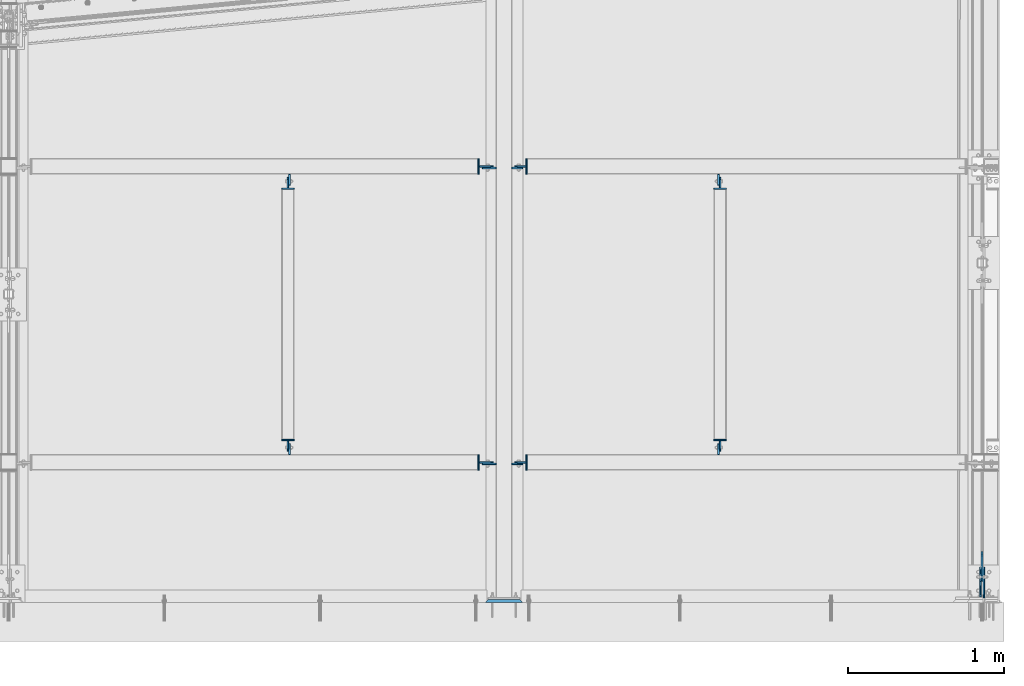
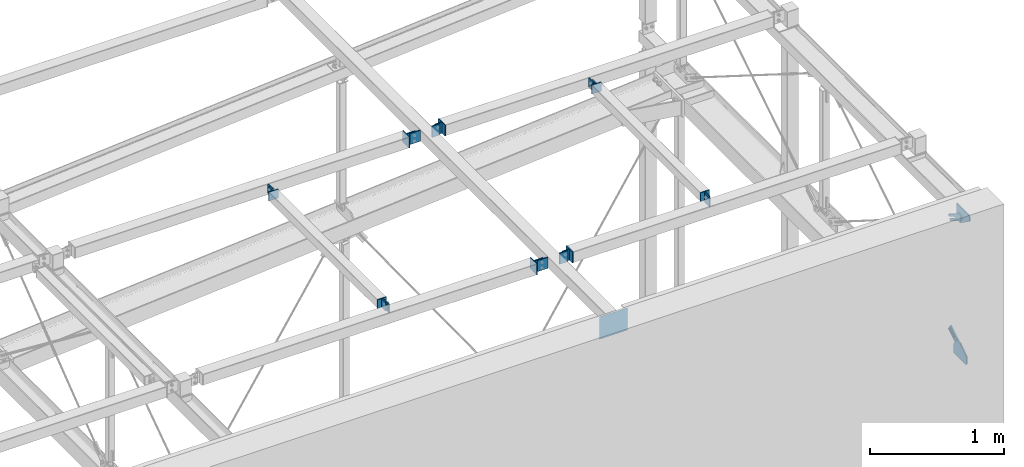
# One storey, part 157 of 271: 29 plates, 12 elements without a shape of their own.
"""IFC2X3 building model written with IfcOpenShell, lengths in millimetres."""

from ifc_helpers import new_model, si_unit, frame, origin_with_axes, place, context, subcontext, project, spatial, polyline, outline, extrude, boolean, material, type_object, element, aggregate, save


model = new_model("IFC2X3")

# Units and contexts
model_context = context("Model", 3, precision=1e-05, world=origin_with_axes())
body_context = subcontext(model_context, "Body", "Model", "MODEL_VIEW")
ifc_project = project(units=[si_unit("LENGTHUNIT", "METRE", prefix="MILLI"), si_unit("AREAUNIT", "SQUARE_METRE"), si_unit("VOLUMEUNIT", "CUBIC_METRE"), si_unit("MASSUNIT", "GRAM", prefix="KILO"), si_unit("TIMEUNIT", "SECOND"), si_unit("PLANEANGLEUNIT", "RADIAN"), si_unit("SOLIDANGLEUNIT", "STERADIAN"), si_unit("THERMODYNAMICTEMPERATUREUNIT", "DEGREE_CELSIUS"), si_unit("LUMINOUSINTENSITYUNIT", "LUMEN")], contexts=[model_context])

# Site, building, storey
site_placement = place(None, origin_with_axes())
site = spatial("IfcSite", under=ifc_project, at=site_placement, Name="Undefined", CompositionType="ELEMENT")
building_placement = place(site_placement, origin_with_axes())
building = spatial("IfcBuilding", under=site, at=building_placement, Name="Undefined", CompositionType="ELEMENT")
storey_placement = place(building_placement, origin_with_axes())
storey = spatial("IfcBuildingStorey", under=building, at=storey_placement, Name="Undefined", CompositionType="ELEMENT", Elevation=0.0)

# Assembly, plate
assembly_1_placement = place(storey_placement, origin_with_axes())
assembly_1 = element("IfcElementAssembly", 1, at=assembly_1_placement, inside=storey, AssemblyPlace="NOTDEFINED", PredefinedType="RIGID_FRAME")
ifc_material_1 = material(Name="STEEL/S355JR")
plate_type_1 = type_object("IfcPlateType", Name="BL8*100", PredefinedType="NOTDEFINED")
plate_1_placement = place(assembly_1_placement, frame((9672.37568709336, 2749.32498425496, 20104.3499999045), z_axis=(-1.0, 0.0, 1.38777878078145e-17), x_axis=(0.0, 0.0, 1.0)))
plate_1 = element("IfcPlate", 2, at=plate_1_placement, type_object=plate_type_1, material=ifc_material_1, Name="BLACHA", ObjectType="BL8*100", context=body_context, shape_type="SweptSolid", body=[
    extrude(outline(polyline([(0.0, 0.0), (100.0, 0.0), (100.0, 100.0), (1.59161572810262e-12, 100.0), (0.0, 0.0)])), frame((0.0, 0.0, -4.0), z_axis=(0.0, 0.0, 1.0), x_axis=(1.0, 0.0, 0.0)), (0.0, 0.0, 1.0), 8.0),
])

assembly_2_placement = place(storey_placement, origin_with_axes())
assembly_2 = element("IfcElementAssembly", 3, at=assembly_2_placement, inside=storey, AssemblyPlace="NOTDEFINED", PredefinedType="RIGID_FRAME")
plate_2_placement = place(assembly_2_placement, frame((9364.37568709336, 2749.32498425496, 20204.3499999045), z_axis=(1.0, 0.0, 0.0), x_axis=(0.0, 0.0, -1.0)))
plate_2 = element("IfcPlate", 4, at=plate_2_placement, type_object=plate_type_1, material=ifc_material_1, Name="BLACHA", ObjectType="BL8*100", context=body_context, shape_type="SweptSolid", body=[
    extrude(outline(polyline([(0.0, 0.0), (100.0, 0.0), (100.0, 100.0), (1.59161572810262e-12, 100.0), (0.0, 0.0)])), frame((0.0, 0.0, -4.0), z_axis=(0.0, 0.0, 1.0), x_axis=(1.0, 0.0, 0.0)), (0.0, 0.0, 1.0), 8.0),
])

assembly_3_placement = place(storey_placement, origin_with_axes())
assembly_3 = element("IfcElementAssembly", 5, at=assembly_3_placement, inside=storey, AssemblyPlace="NOTDEFINED", PredefinedType="RIGID_FRAME")
plate_3_placement = place(assembly_3_placement, frame((9364.37568709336, 849.32498425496, 20204.3499999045), z_axis=(1.0, 0.0, 0.0), x_axis=(0.0, 0.0, -1.0)))
plate_3 = element("IfcPlate", 6, at=plate_3_placement, type_object=plate_type_1, material=ifc_material_1, Name="BLACHA", ObjectType="BL8*100", context=body_context, shape_type="SweptSolid", body=[
    extrude(outline(polyline([(0.0, 0.0), (100.0, 0.0), (100.0, 100.0), (1.59161572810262e-12, 100.0), (0.0, 0.0)])), frame((0.0, 0.0, -4.0), z_axis=(0.0, 0.0, 1.0), x_axis=(1.0, 0.0, 0.0)), (0.0, 0.0, 1.0), 8.0),
])

assembly_4_placement = place(storey_placement, origin_with_axes())
assembly_4 = element("IfcElementAssembly", 7, at=assembly_4_placement, inside=storey, AssemblyPlace="NOTDEFINED", PredefinedType="RIGID_FRAME")
plate_4_placement = place(assembly_4_placement, frame((9672.37568709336, 849.32498425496, 20104.3499999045), z_axis=(-1.0, 0.0, 1.38777878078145e-17), x_axis=(0.0, 0.0, 1.0)))
plate_4 = element("IfcPlate", 8, at=plate_4_placement, type_object=plate_type_1, material=ifc_material_1, Name="BLACHA", ObjectType="BL8*100", context=body_context, shape_type="SweptSolid", body=[
    extrude(outline(polyline([(0.0, 0.0), (100.0, 0.0), (100.0, 100.0), (1.59161572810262e-12, 100.0), (0.0, 0.0)])), frame((0.0, 0.0, -4.0), z_axis=(0.0, 0.0, 1.0), x_axis=(1.0, 0.0, 0.0)), (0.0, 0.0, 1.0), 8.0),
])

assembly_5_placement = place(storey_placement, origin_with_axes())
assembly_5 = element("IfcElementAssembly", 9, at=assembly_5_placement, inside=storey, AssemblyPlace="NOTDEFINED", PredefinedType="RIGID_FRAME")
plate_type_2 = type_object("IfcPlateType", Name="BL12*56", PredefinedType="NOTDEFINED")
plate_5_placement = place(assembly_5_placement, frame((12597.7513741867, 141.117325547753, 18753.0240687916), z_axis=(1.0, 0.0, 0.0), x_axis=(0.0, -0.221213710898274, -0.975225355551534)))
plate_5 = element("IfcPlate", 10, at=plate_5_placement, type_object=plate_type_2, material=ifc_material_1, Name="BLACHA", ObjectType="BL12*56", context=body_context, shape_type="SweptSolid", body=[
    extrude(outline(polyline([(0.0, 0.0), (21.2132034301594, 1.09139364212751e-11), (39.5979804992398, 18.3847751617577), (39.5979804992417, 39.5979804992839), (-91.2167739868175, 170.412734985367), (-105.358909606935, 156.270599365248), (-34.6482315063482, 85.5599212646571), (-45.9619407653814, 74.2462158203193), (-116.672622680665, 144.95689392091), (-130.814758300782, 130.814758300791), (0.0, 0.0)])), frame((0.0, 0.0, -6.0), z_axis=(0.0, 0.0, 1.0), x_axis=(1.0, 0.0, 0.0)), (0.0, 0.0, 1.0), 12.0),
])
aggregate(assembly_5, [plate_5])

assembly_6_placement = place(storey_placement, origin_with_axes())
assembly_6 = element("IfcElementAssembly", 11, at=assembly_6_placement, inside=storey, AssemblyPlace="NOTDEFINED", PredefinedType="RIGID_FRAME")
plate_6_placement = place(assembly_6_placement, frame((12597.7513741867, 140.085929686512, 19896.325929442), z_axis=(-1.0, 0.0, 1.38777878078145e-17), x_axis=(0.0, -0.221213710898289, 0.97522535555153)))
plate_6 = element("IfcPlate", 12, at=plate_6_placement, type_object=plate_type_2, material=ifc_material_1, Name="BLACHA", ObjectType="BL12*56", context=body_context, shape_type="SweptSolid", body=[
    extrude(outline(polyline([(0.0, 0.0), (21.2132034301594, 1.09139364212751e-11), (39.5979804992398, 18.3847751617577), (39.5979804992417, 39.5979804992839), (-91.2167739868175, 170.412734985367), (-105.358909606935, 156.270599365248), (-34.6482315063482, 85.5599212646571), (-45.9619407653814, 74.2462158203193), (-116.672622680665, 144.95689392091), (-130.814758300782, 130.814758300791), (0.0, 0.0)])), frame((0.0, 0.0, -6.0), z_axis=(0.0, 0.0, 1.0), x_axis=(1.0, 0.0, 0.0)), (0.0, 0.0, 1.0), 12.0),
])
aggregate(assembly_6, [plate_6])

assembly_7_placement = place(storey_placement, origin_with_axes())
assembly_7 = element("IfcElementAssembly", 13, at=assembly_7_placement, inside=storey, AssemblyPlace="NOTDEFINED", PredefinedType="RIGID_FRAME")
plate_type_3 = type_object("IfcPlateType", Name="BL10*70", PredefinedType="NOTDEFINED")
plate_7_placement = place(assembly_7_placement, frame((10915.3756870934, 984.32498425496, 20204.3499999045), z_axis=(1.0, 0.0, 0.0), x_axis=(0.0, -0.707106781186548, -0.707106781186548)))
plate_7 = element("IfcPlate", 14, at=plate_7_placement, type_object=plate_type_3, material=ifc_material_1, Name="BLACHA", ObjectType="BL10*70", context=body_context, shape_type="SweptSolid", body=[
    extrude(outline(polyline([(0.0, 0.0), (21.2132034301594, 1.09139364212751e-11), (56.5685424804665, 35.3553390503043), (56.568542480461, 56.5685424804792), (17.6776695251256, 95.4594192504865), (-38.890872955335, 38.8908729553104), (0.0, 0.0)])), frame((0.0, 0.0, -5.0), z_axis=(0.0, 0.0, 1.0), x_axis=(1.0, 0.0, 0.0)), (0.0, 0.0, 1.0), 10.0),
])

# Plate
plate_8_placement = place(assembly_4_placement, frame((10905.3756870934, 949.32498425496, 20204.3499999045), z_axis=(1.0, 0.0, 0.0), x_axis=(0.0, 0.0, -1.0)))
plate_8 = element("IfcPlate", 15, at=plate_8_placement, type_object=plate_type_3, material=ifc_material_1, Name="BLACHA", ObjectType="BL10*70", context=body_context, shape_type="SweptSolid", body=[
    extrude(outline(polyline([(0.0, 0.0), (80.0, 0.0), (80.0, 70.0), (0.0, 70.0), (0.0, 0.0)])), frame((0.0, 0.0, -5.0), z_axis=(0.0, 0.0, 1.0), x_axis=(1.0, 0.0, 0.0)), (0.0, 0.0, 1.0), 10.0),
])

plate_9_placement = place(assembly_7_placement, frame((10915.3756870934, 2714.32498425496, 20124.3499999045), z_axis=(1.0, 0.0, 0.0), x_axis=(0.0, 0.707106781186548, 0.707106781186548)))
plate_9 = element("IfcPlate", 16, at=plate_9_placement, type_object=plate_type_3, material=ifc_material_1, Name="BLACHA", ObjectType="BL10*70", context=body_context, shape_type="SweptSolid", body=[
    extrude(outline(polyline([(0.0, 0.0), (21.2132034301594, 1.09139364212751e-11), (56.5685424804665, 35.3553390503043), (56.568542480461, 56.5685424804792), (17.6776695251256, 95.4594192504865), (-38.890872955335, 38.8908729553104), (0.0, 0.0)])), frame((0.0, 0.0, -5.0), z_axis=(0.0, 0.0, 1.0), x_axis=(1.0, 0.0, 0.0)), (0.0, 0.0, 1.0), 10.0),
])

plate_10_placement = place(assembly_1_placement, frame((10905.3756870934, 2749.32498425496, 20124.3499999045), z_axis=(1.0, 0.0, 0.0), x_axis=(0.0, 0.0, 1.0)))
plate_10 = element("IfcPlate", 17, at=plate_10_placement, type_object=plate_type_3, material=ifc_material_1, Name="BLACHA", ObjectType="BL10*70", context=body_context, shape_type="SweptSolid", body=[
    extrude(outline(polyline([(0.0, 0.0), (80.0, 0.0), (80.0, 70.0), (0.0, 70.0), (0.0, 0.0)])), frame((0.0, 0.0, -5.0), z_axis=(0.0, 0.0, 1.0), x_axis=(1.0, 0.0, 0.0)), (0.0, 0.0, 1.0), 10.0),
])

# Assembly, plate
assembly_8_placement = place(storey_placement, origin_with_axes())
assembly_8 = element("IfcElementAssembly", 18, at=assembly_8_placement, inside=storey, AssemblyPlace="NOTDEFINED", PredefinedType="RIGID_FRAME")
plate_11_placement = place(assembly_8_placement, frame((8141.37568709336, 984.32498425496, 20124.3499999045), z_axis=(-1.0, 0.0, 1.38777878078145e-17), x_axis=(0.0, -0.707106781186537, 0.707106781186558)))
plate_11 = element("IfcPlate", 19, at=plate_11_placement, type_object=plate_type_3, material=ifc_material_1, Name="BLACHA", ObjectType="BL10*70", context=body_context, shape_type="SweptSolid", body=[
    extrude(outline(polyline([(0.0, 0.0), (21.2132034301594, 1.09139364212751e-11), (56.5685424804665, 35.3553390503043), (56.568542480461, 56.5685424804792), (17.6776695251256, 95.4594192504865), (-38.890872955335, 38.8908729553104), (0.0, 0.0)])), frame((0.0, 0.0, -5.0), z_axis=(0.0, 0.0, 1.0), x_axis=(1.0, 0.0, 0.0)), (0.0, 0.0, 1.0), 10.0),
])

# Plate
plate_12_placement = place(assembly_3_placement, frame((8151.37568709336, 949.32498425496, 20124.3499999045), z_axis=(-1.0, 0.0, 1.38777878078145e-17), x_axis=(0.0, 0.0, 1.0)))
plate_12 = element("IfcPlate", 20, at=plate_12_placement, type_object=plate_type_3, material=ifc_material_1, Name="BLACHA", ObjectType="BL10*70", context=body_context, shape_type="SweptSolid", body=[
    extrude(outline(polyline([(0.0, 0.0), (80.0, 0.0), (80.0, 70.0), (0.0, 70.0), (0.0, 0.0)])), frame((0.0, 0.0, -5.0), z_axis=(0.0, 0.0, 1.0), x_axis=(1.0, 0.0, 0.0)), (0.0, 0.0, 1.0), 10.0),
])

plate_13_placement = place(assembly_8_placement, frame((8141.37568709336, 2714.32498425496, 20204.3499999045), z_axis=(-1.0, 0.0, 1.38777878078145e-17), x_axis=(0.0, 0.707106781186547, -0.707106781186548)))
plate_13 = element("IfcPlate", 21, at=plate_13_placement, type_object=plate_type_3, material=ifc_material_1, Name="BLACHA", ObjectType="BL10*70", context=body_context, shape_type="SweptSolid", body=[
    extrude(outline(polyline([(0.0, 0.0), (21.2132034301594, 1.09139364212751e-11), (56.5685424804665, 35.3553390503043), (56.568542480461, 56.5685424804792), (17.6776695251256, 95.4594192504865), (-38.890872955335, 38.8908729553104), (0.0, 0.0)])), frame((0.0, 0.0, -5.0), z_axis=(0.0, 0.0, 1.0), x_axis=(1.0, 0.0, 0.0)), (0.0, 0.0, 1.0), 10.0),
])

plate_14_placement = place(assembly_2_placement, frame((8151.37568709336, 2749.32498425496, 20204.3499999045), z_axis=(-1.0, 0.0, 1.38777878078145e-17), x_axis=(0.0, 0.0, -1.0)))
plate_14 = element("IfcPlate", 22, at=plate_14_placement, type_object=plate_type_3, material=ifc_material_1, Name="BLACHA", ObjectType="BL10*70", context=body_context, shape_type="SweptSolid", body=[
    extrude(outline(polyline([(0.0, 0.0), (80.0, 0.0), (80.0, 70.0), (0.0, 70.0), (0.0, 0.0)])), frame((0.0, 0.0, -5.0), z_axis=(0.0, 0.0, 1.0), x_axis=(1.0, 0.0, 0.0)), (0.0, 0.0, 1.0), 10.0),
])

plate_15_placement = place(assembly_1_placement, frame((9613.37568709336, 2799.32498425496, 20104.3499999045), z_axis=(0.0, 1.0, 0.0), x_axis=(-0.707106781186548, 0.0, 0.707106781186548)))
plate_15 = element("IfcPlate", 23, at=plate_15_placement, type_object=plate_type_3, material=ifc_material_1, Name="BLACHA", ObjectType="BL10*70", context=body_context, shape_type="SweptSolid", body=[
    extrude(outline(polyline([(0.0, 0.0), (21.2132034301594, 1.09139364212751e-11), (70.7106781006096, 49.4974746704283), (70.7106781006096, 70.7106781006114), (31.8198051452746, 109.601554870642), (-38.890872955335, 38.8908729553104), (0.0, 0.0)])), frame((0.0, 0.0, -5.0), z_axis=(0.0, 0.0, 1.0), x_axis=(1.0, 0.0, 0.0)), (0.0, 0.0, 1.0), 10.0),
])

aggregate(assembly_1, [plate_10, plate_1, plate_15])

# Assembly, plate
assembly_9_placement = place(storey_placement, origin_with_axes())
assembly_9 = element("IfcElementAssembly", 24, at=assembly_9_placement, inside=storey, AssemblyPlace="NOTDEFINED", PredefinedType="RIGID_FRAME")
plate_16_placement = place(assembly_9_placement, frame((9578.37568709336, 2789.32498425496, 20104.3499999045), z_axis=(0.0, 1.0, 0.0), x_axis=(0.0, 0.0, 1.0)))
plate_16 = element("IfcPlate", 25, at=plate_16_placement, type_object=plate_type_3, material=ifc_material_1, Name="BLACHA", ObjectType="BL10*70", context=body_context, shape_type="SweptSolid", body=[
    extrude(outline(polyline([(0.0, 0.0), (100.0, 0.0), (100.0, 70.0), (0.0, 70.0), (0.0, 0.0)])), frame((0.0, 0.0, -5.0), z_axis=(0.0, 0.0, 1.0), x_axis=(1.0, 0.0, 0.0)), (0.0, 0.0, 1.0), 10.0),
])

# Plate
plate_17_placement = place(assembly_4_placement, frame((9613.37568709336, 899.32498425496, 20104.3499999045), z_axis=(0.0, 1.0, 0.0), x_axis=(-0.707106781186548, 0.0, 0.707106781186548)))
plate_17 = element("IfcPlate", 26, at=plate_17_placement, type_object=plate_type_3, material=ifc_material_1, Name="BLACHA", ObjectType="BL10*70", context=body_context, shape_type="SweptSolid", body=[
    extrude(outline(polyline([(0.0, 0.0), (21.2132034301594, 1.09139364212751e-11), (70.7106781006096, 49.4974746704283), (70.7106781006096, 70.7106781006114), (31.8198051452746, 109.601554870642), (-38.890872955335, 38.8908729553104), (0.0, 0.0)])), frame((0.0, 0.0, -5.0), z_axis=(0.0, 0.0, 1.0), x_axis=(1.0, 0.0, 0.0)), (0.0, 0.0, 1.0), 10.0),
])

aggregate(assembly_4, [plate_8, plate_4, plate_17])

plate_18_placement = place(assembly_9_placement, frame((9578.37568709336, 889.32498425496, 20104.3499999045), z_axis=(0.0, 1.0, 0.0), x_axis=(0.0, 0.0, 1.0)))
plate_18 = element("IfcPlate", 27, at=plate_18_placement, type_object=plate_type_3, material=ifc_material_1, Name="BLACHA", ObjectType="BL10*70", context=body_context, shape_type="SweptSolid", body=[
    extrude(outline(polyline([(0.0, 0.0), (100.0, 0.0), (100.0, 70.0), (0.0, 70.0), (0.0, 0.0)])), frame((0.0, 0.0, -5.0), z_axis=(0.0, 0.0, 1.0), x_axis=(1.0, 0.0, 0.0)), (0.0, 0.0, 1.0), 10.0),
])

plate_type_4 = type_object("IfcPlateType", Name="BL8*80", PredefinedType="NOTDEFINED")
plate_19_placement = place(assembly_7_placement, frame((10875.3756870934, 1043.32498425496, 20204.3499999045), z_axis=(0.0, -1.0, 0.0), x_axis=(0.0, 0.0, -1.0)))
plate_19 = element("IfcPlate", 28, at=plate_19_placement, type_object=plate_type_4, material=ifc_material_1, Name="BLACHA", ObjectType="BL8*80", context=body_context, shape_type="SweptSolid", body=[
    extrude(outline(polyline([(0.0, 0.0), (80.0, 0.0), (80.0, 80.0), (0.0, 80.0), (0.0, 0.0)])), frame((0.0, 0.0, -4.0), z_axis=(0.0, 0.0, 1.0), x_axis=(1.0, 0.0, 0.0)), (0.0, 0.0, 1.0), 8.0),
])

plate_20_placement = place(assembly_7_placement, frame((10875.3756870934, 2655.32498425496, 20124.3499999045), z_axis=(0.0, 1.0, 0.0), x_axis=(0.0, 0.0, 1.0)))
plate_20 = element("IfcPlate", 29, at=plate_20_placement, type_object=plate_type_4, material=ifc_material_1, Name="BLACHA", ObjectType="BL8*80", context=body_context, shape_type="SweptSolid", body=[
    extrude(outline(polyline([(0.0, 0.0), (80.0, 0.0), (80.0, 80.0), (0.0, 80.0), (0.0, 0.0)])), frame((0.0, 0.0, -4.0), z_axis=(0.0, 0.0, 1.0), x_axis=(1.0, 0.0, 0.0)), (0.0, 0.0, 1.0), 8.0),
])

aggregate(assembly_7, [plate_19, plate_7, plate_20, plate_9])

plate_21_placement = place(assembly_8_placement, frame((8181.37568709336, 1043.32498425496, 20124.3499999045), z_axis=(0.0, -1.0, 0.0), x_axis=(0.0, 0.0, 1.0)))
plate_21 = element("IfcPlate", 30, at=plate_21_placement, type_object=plate_type_4, material=ifc_material_1, Name="BLACHA", ObjectType="BL8*80", context=body_context, shape_type="SweptSolid", body=[
    extrude(outline(polyline([(0.0, 0.0), (80.0, 0.0), (80.0, 80.0), (0.0, 80.0), (0.0, 0.0)])), frame((0.0, 0.0, -4.0), z_axis=(0.0, 0.0, 1.0), x_axis=(1.0, 0.0, 0.0)), (0.0, 0.0, 1.0), 8.0),
])

plate_22_placement = place(assembly_8_placement, frame((8181.37568709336, 2655.32498425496, 20204.3499999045), z_axis=(0.0, 1.0, 0.0), x_axis=(0.0, 0.0, -1.0)))
plate_22 = element("IfcPlate", 31, at=plate_22_placement, type_object=plate_type_4, material=ifc_material_1, Name="BLACHA", ObjectType="BL8*80", context=body_context, shape_type="SweptSolid", body=[
    extrude(outline(polyline([(0.0, 0.0), (80.0, 0.0), (80.0, 80.0), (0.0, 80.0), (0.0, 0.0)])), frame((0.0, 0.0, -4.0), z_axis=(0.0, 0.0, 1.0), x_axis=(1.0, 0.0, 0.0)), (0.0, 0.0, 1.0), 8.0),
])

aggregate(assembly_8, [plate_21, plate_11, plate_22, plate_13])

# Assembly, plate
assembly_10_placement = place(storey_placement, origin_with_axes())
assembly_10 = element("IfcElementAssembly", 32, at=assembly_10_placement, inside=storey, AssemblyPlace="NOTDEFINED", PredefinedType="RIGID_FRAME")
plate_type_5 = type_object("IfcPlateType", Name="BL10*146", PredefinedType="NOTDEFINED")
plate_23_placement = place(assembly_10_placement, frame((12586.751374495, 35.3249842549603, 18647.649999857), z_axis=(1.0, 0.0, 0.0), x_axis=(0.0, 1.0, 0.0)))
plate_23 = element("IfcPlate", 33, at=plate_23_placement, type_object=plate_type_5, material=ifc_material_1, Name="BLACHA", ObjectType="BL10*146", context=body_context, shape_type="SweptSolid", body=[
    extrude(outline(polyline([(0.0, 15.0), (15.0, -1.59872115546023e-14), (191.741958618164, 0.0), (191.741958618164, 81.5274047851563), (151.221282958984, 145.824172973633), (100.0, 145.824172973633), (0.0, 75.8241729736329), (0.0, 15.0)])), frame((0.0, 0.0, -5.0), z_axis=(0.0, 0.0, 1.0), x_axis=(1.0, 0.0, 0.0)), (0.0, 0.0, 1.0), 10.0),
])
aggregate(assembly_10, [plate_23])

assembly_11_placement = place(storey_placement, origin_with_axes())
assembly_11 = element("IfcElementAssembly", 34, at=assembly_11_placement, inside=storey, AssemblyPlace="NOTDEFINED", PredefinedType="RIGID_FRAME")
plate_24_placement = place(assembly_11_placement, frame((12608.751374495, 31.3249842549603, 20001.699999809), z_axis=(-1.0, 0.0, 1.38777878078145e-17), x_axis=(0.0, 1.0, 0.0)))
plate_24 = element("IfcPlate", 35, at=plate_24_placement, type_object=plate_type_5, material=ifc_material_1, Name="BLACHA", ObjectType="BL10*146", context=body_context, shape_type="SweptSolid", body=[
    extrude(outline(polyline([(0.0, 15.0), (15.0, -1.59872115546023e-14), (194.710556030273, -1.4210854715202e-14), (194.710556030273, 81.5274047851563), (154.189895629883, 145.824172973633), (135.0, 145.824172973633), (-1.35817005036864e-14, 50.8241729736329), (0.0, 15.0)])), frame((0.0, 0.0, -5.0), z_axis=(0.0, 0.0, 1.0), x_axis=(1.0, 0.0, 0.0)), (0.0, 0.0, 1.0), 10.0),
])
aggregate(assembly_11, [plate_24])

# Plate
plate_type_6 = type_object("IfcPlateType", Name="BL10*90", PredefinedType="NOTDEFINED")
plate_25_placement = place(assembly_2_placement, frame((9443.37568709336, 2799.32498425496, 20204.3499999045), z_axis=(0.0, 1.0, 0.0), x_axis=(0.70710678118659, 0.0, -0.707106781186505)))
plate_25 = element("IfcPlate", 36, at=plate_25_placement, type_object=plate_type_6, material=ifc_material_1, Name="BLACHA", ObjectType="BL10*90", context=body_context, shape_type="SweptSolid", body=[
    extrude(outline(polyline([(0.0, 0.0), (21.2132034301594, 1.09139364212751e-11), (70.7106781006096, 49.4974746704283), (70.7106781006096, 70.7106781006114), (17.6776695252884, 123.743690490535), (-53.033008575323, 53.0330085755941), (0.0, 0.0)])), frame((0.0, 0.0, -5.0), z_axis=(0.0, 0.0, 1.0), x_axis=(1.0, 0.0, 0.0)), (0.0, 0.0, 1.0), 10.0),
])

aggregate(assembly_2, [plate_14, plate_2, plate_25])

plate_26_placement = place(assembly_9_placement, frame((9478.37568709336, 2789.32498425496, 20204.3499999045), z_axis=(0.0, 1.0, 0.0), x_axis=(0.0, 0.0, -1.0)))
plate_26 = element("IfcPlate", 37, at=plate_26_placement, type_object=plate_type_6, material=ifc_material_1, Name="BLACHA", ObjectType="BL10*90", context=body_context, shape_type="SweptSolid", body=[
    extrude(outline(polyline([(0.0, 0.0), (100.0, 0.0), (100.0, 90.0), (0.0, 90.0), (0.0, 0.0)])), frame((0.0, 0.0, -5.0), z_axis=(0.0, 0.0, 1.0), x_axis=(1.0, 0.0, 0.0)), (0.0, 0.0, 1.0), 10.0),
])

plate_27_placement = place(assembly_3_placement, frame((9443.37568709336, 899.32498425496, 20204.3499999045), z_axis=(0.0, 1.0, 0.0), x_axis=(0.70710678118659, 0.0, -0.707106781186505)))
plate_27 = element("IfcPlate", 38, at=plate_27_placement, type_object=plate_type_6, material=ifc_material_1, Name="BLACHA", ObjectType="BL10*90", context=body_context, shape_type="SweptSolid", body=[
    extrude(outline(polyline([(0.0, 0.0), (21.2132034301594, 1.09139364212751e-11), (70.7106781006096, 49.4974746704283), (70.7106781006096, 70.7106781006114), (17.6776695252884, 123.743690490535), (-53.033008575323, 53.0330085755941), (0.0, 0.0)])), frame((0.0, 0.0, -5.0), z_axis=(0.0, 0.0, 1.0), x_axis=(1.0, 0.0, 0.0)), (0.0, 0.0, 1.0), 10.0),
])

aggregate(assembly_3, [plate_12, plate_3, plate_27])

plate_28_placement = place(assembly_9_placement, frame((9478.37568709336, 889.32498425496, 20204.3499999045), z_axis=(0.0, 1.0, 0.0), x_axis=(0.0, 0.0, -1.0)))
plate_28 = element("IfcPlate", 39, at=plate_28_placement, type_object=plate_type_6, material=ifc_material_1, Name="BLACHA", ObjectType="BL10*90", context=body_context, shape_type="SweptSolid", body=[
    extrude(outline(polyline([(0.0, 0.0), (100.0, 0.0), (100.0, 90.0), (0.0, 90.0), (0.0, 0.0)])), frame((0.0, 0.0, -5.0), z_axis=(0.0, 0.0, 1.0), x_axis=(1.0, 0.0, 0.0)), (0.0, 0.0, 1.0), 10.0),
])

aggregate(assembly_9, [plate_16, plate_26, plate_28, plate_18])

# Assembly, plate
assembly_12_placement = place(storey_placement, origin_with_axes())
assembly_12 = element("IfcElementAssembly", 40, at=assembly_12_placement, inside=storey, Name="GROUT", AssemblyPlace="NOTDEFINED", PredefinedType="NOTDEFINED")
ifc_material_2 = material(Name="Undefined/GROUT")
plate_type_7 = type_object("IfcPlateType", Name="BL20*205", PredefinedType="NOTDEFINED")
plate_29_placement = place(assembly_12_placement, frame((9648.37568709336, 9.32498425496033, 20019.3499999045), z_axis=(0.0, 1.0, 0.0), x_axis=(-1.0, 0.0, 1.38777878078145e-17)))
plate_29 = element("IfcPlate", 41, at=plate_29_placement, type_object=plate_type_7, material=ifc_material_2, Name="GROUT", ObjectType="BL20*205", context=body_context, shape_type="CSG", body=[
    boolean("DIFFERENCE", boolean("DIFFERENCE", boolean("DIFFERENCE", boolean("DIFFERENCE", extrude(outline(polyline([(0.0, 0.0), (240.0, 0.0), (240.0, 205.0), (0.0, 205.0), (0.0, 0.0)])), frame((0.0, 0.0, -10.0), z_axis=(0.0, 0.0, 1.0), x_axis=(1.0, 0.0, 0.0)), (0.0, 0.0, 1.0), 20.0), extrude(outline(polyline([(0.0, 0.0), (44.2842712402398, -1.45519152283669e-11), (22.1421356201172, 22.1421356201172), (0.0, 0.0)])), frame((-5.65685424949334, 213.0, -15.6568542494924), z_axis=(0.0, -1.0, 0.0), x_axis=(0.707106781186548, 0.0, 0.707106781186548)), (0.0, 0.0, 1.0), 221.0)), extrude(outline(polyline([(0.0, 0.0), (42.2842712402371, -1.54614099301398e-11), (21.1421356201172, 21.1421356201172), (0.0, 0.0)])), frame((247.0, 209.949747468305, -14.9497474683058), z_axis=(-1.0, 0.0, 1.38777878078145e-17), x_axis=(0.0, -0.707106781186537, 0.707106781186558)), (0.0, 0.0, 1.0), 254.0)), extrude(outline(polyline([(0.0, 0.0), (40.2842712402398, -1.45519152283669e-11), (20.1421356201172, 20.1421356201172), (0.0, 0.0)])), frame((244.24264068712, -6.0, -14.2426406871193), z_axis=(0.0, 1.0, 0.0), x_axis=(-0.707106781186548, 0.0, 0.707106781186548)), (0.0, 0.0, 1.0), 217.0)), extrude(outline(polyline([(0.0, 0.0), (38.284271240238, -1.45519152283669e-11), (19.1421356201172, 19.1421356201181), (0.0, 0.0)])), frame((-5.0, -3.53553390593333, -13.5355339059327), z_axis=(1.0, 0.0, 0.0), x_axis=(0.0, 0.707106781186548, 0.707106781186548)), (0.0, 0.0, 1.0), 250.0)),
])
aggregate(assembly_12, [plate_29])

save(model, "model.ifc")
